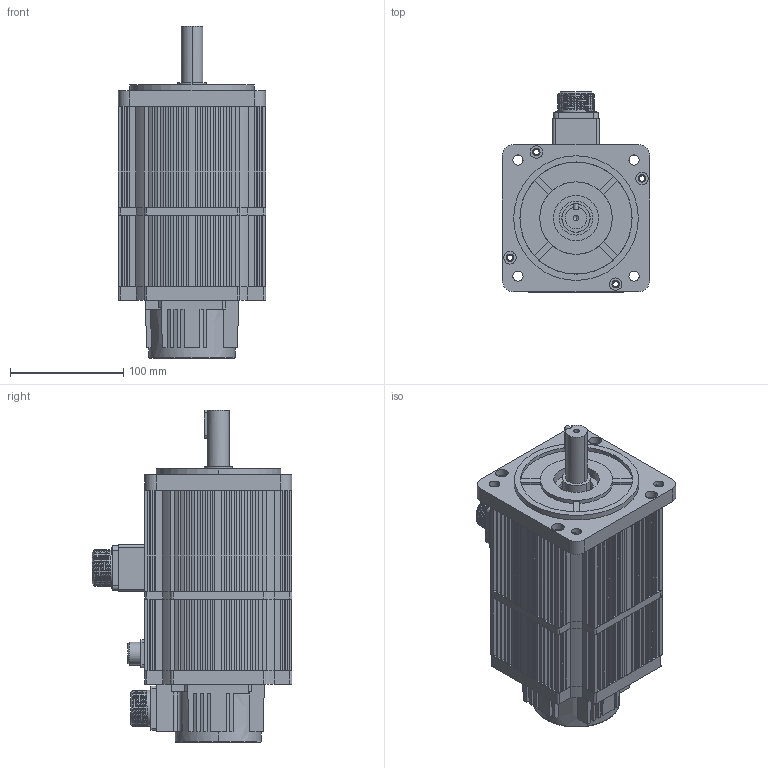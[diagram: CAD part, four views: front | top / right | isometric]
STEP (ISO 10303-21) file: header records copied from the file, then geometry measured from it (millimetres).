
FILE_DESCRIPTION (( 'STEP AP203' ), '1' );
FILE_NAME ('z130 1.0kW brake.STEP', '2010-03-03T05:31:39', ( '' ), ( '' ), 'SwSTEP 2.0', 'SolidWorks 2011', '' );
FILE_SCHEMA (( 'CONFIG_CONTROL_DESIGN' ));
Length unit declared in the file: millimetre
Products named in the file (1): z130 1.0kW brake
Bounding box: 130 x 176.5 x 293 mm (x, y, z)
Volume: 1132876.2 mm3; surface area: 490221.9 mm2
Topology: 13 solids, 17 shells, 1696 faces, 4678 edges, 3082 vertices
Faces by surface type: plane 1020, cylinder 566, bspline 72, cone 38
Entity records: 59594 total; most frequent: CARTESIAN_POINT 16123, ORIENTED_EDGE 9240, DIRECTION 8724, EDGE_CURVE 4620, VECTOR 3210, LINE 3210, VERTEX_POINT 3082, AXIS2_PLACEMENT_3D 2757
